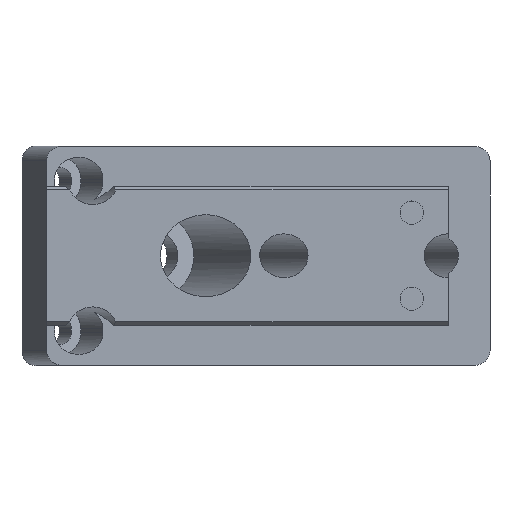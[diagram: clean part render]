
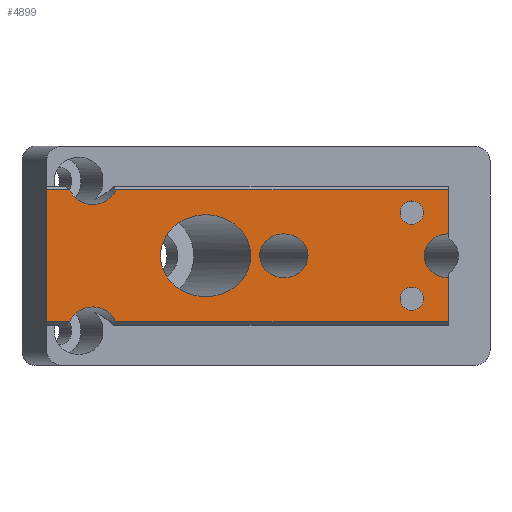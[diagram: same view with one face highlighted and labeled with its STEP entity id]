
A CAD part, top view. The second image highlights one B-rep face of the part: STEP entity #4899.
In plain terms, the highlighted planar face has unit normal (0, 0, 1).
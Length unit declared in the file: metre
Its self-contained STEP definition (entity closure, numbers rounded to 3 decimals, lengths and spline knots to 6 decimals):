
#186=ELLIPSE('',#5206,0.006179,0.0056);
#187=ELLIPSE('',#5207,0.00331,0.003);
#188=ELLIPSE('',#5210,0.00331,0.003);
#189=ELLIPSE('',#5211,0.00331,0.003);
#190=ELLIPSE('',#5212,0.00331,0.003);
#293=CIRCLE('',#5208,0.0016);
#294=CIRCLE('',#5209,0.0016);
#428=ORIENTED_EDGE('',*,*,#1924,.T.);
#429=ORIENTED_EDGE('',*,*,#1925,.T.);
#430=ORIENTED_EDGE('',*,*,#1926,.T.);
#431=ORIENTED_EDGE('',*,*,#1927,.T.);
#432=ORIENTED_EDGE('',*,*,#1928,.F.);
#433=ORIENTED_EDGE('',*,*,#1929,.T.);
#434=ORIENTED_EDGE('',*,*,#1930,.F.);
#435=ORIENTED_EDGE('',*,*,#1931,.T.);
#436=ORIENTED_EDGE('',*,*,#1932,.F.);
#437=ORIENTED_EDGE('',*,*,#1933,.T.);
#438=ORIENTED_EDGE('',*,*,#1934,.T.);
#439=ORIENTED_EDGE('',*,*,#1935,.T.);
#440=ORIENTED_EDGE('',*,*,#1936,.F.);
#441=ORIENTED_EDGE('',*,*,#1937,.T.);
#1924=EDGE_CURVE('',#2672,#2672,#186,.T.);
#1925=EDGE_CURVE('',#2673,#2673,#187,.T.);
#1926=EDGE_CURVE('',#2674,#2674,#293,.T.);
#1927=EDGE_CURVE('',#2675,#2675,#294,.T.);
#1928=EDGE_CURVE('',#2676,#2677,#3156,.T.);
#1929=EDGE_CURVE('',#2676,#2678,#188,.T.);
#1930=EDGE_CURVE('',#2679,#2678,#3157,.T.);
#1931=EDGE_CURVE('',#2679,#2680,#3158,.T.);
#1932=EDGE_CURVE('',#2681,#2680,#189,.F.);
#1933=EDGE_CURVE('',#2681,#2682,#3159,.T.);
#1934=EDGE_CURVE('',#2682,#2683,#3160,.T.);
#1935=EDGE_CURVE('',#2683,#2684,#3161,.T.);
#1936=EDGE_CURVE('',#2685,#2684,#190,.F.);
#1937=EDGE_CURVE('',#2685,#2677,#3162,.T.);
#2672=VERTEX_POINT('',#6831);
#2673=VERTEX_POINT('',#6833);
#2674=VERTEX_POINT('',#6835);
#2675=VERTEX_POINT('',#6837);
#2676=VERTEX_POINT('',#6839);
#2677=VERTEX_POINT('',#6840);
#2678=VERTEX_POINT('',#6842);
#2679=VERTEX_POINT('',#6844);
#2680=VERTEX_POINT('',#6846);
#2681=VERTEX_POINT('',#6848);
#2682=VERTEX_POINT('',#6850);
#2683=VERTEX_POINT('',#6852);
#2684=VERTEX_POINT('',#6854);
#2685=VERTEX_POINT('',#6856);
#3156=LINE('',#6838,#3649);
#3157=LINE('',#6843,#3650);
#3158=LINE('',#6845,#3651);
#3159=LINE('',#6849,#3652);
#3160=LINE('',#6851,#3653);
#3161=LINE('',#6853,#3654);
#3162=LINE('',#6857,#3655);
#3649=VECTOR('',#5616,1.);
#3650=VECTOR('',#5619,1.);
#3651=VECTOR('',#5620,1.);
#3652=VECTOR('',#5623,1.);
#3653=VECTOR('',#5624,1.);
#3654=VECTOR('',#5625,1.);
#3655=VECTOR('',#5628,1.);
#4129=EDGE_LOOP('',(#428));
#4130=EDGE_LOOP('',(#429));
#4131=EDGE_LOOP('',(#430));
#4132=EDGE_LOOP('',(#431));
#4133=EDGE_LOOP('',(#432,#433,#434,#435,#436,#437,#438,#439,#440,#441));
#4440=FACE_BOUND('',#4129,.T.);
#4441=FACE_BOUND('',#4130,.T.);
#4442=FACE_BOUND('',#4131,.T.);
#4443=FACE_BOUND('',#4132,.T.);
#4444=FACE_BOUND('',#4133,.T.);
#4743=PLANE('',#5205);
#4899=ADVANCED_FACE('',(#4440,#4441,#4442,#4443,#4444),#4743,.F.);
#5205=AXIS2_PLACEMENT_3D('',#6829,#5606,#5607);
#5206=AXIS2_PLACEMENT_3D('',#6830,#5608,#5609);
#5207=AXIS2_PLACEMENT_3D('',#6832,#5610,#5611);
#5208=AXIS2_PLACEMENT_3D('',#6834,#5612,#5613);
#5209=AXIS2_PLACEMENT_3D('',#6836,#5614,#5615);
#5210=AXIS2_PLACEMENT_3D('',#6841,#5617,#5618);
#5211=AXIS2_PLACEMENT_3D('',#6847,#5621,#5622);
#5212=AXIS2_PLACEMENT_3D('',#6855,#5626,#5627);
#5606=DIRECTION('',(0.,0.,-1.));
#5607=DIRECTION('',(-1.,0.,0.));
#5608=DIRECTION('',(0.,0.,-1.));
#5609=DIRECTION('',(-1.,0.,0.));
#5610=DIRECTION('',(0.,0.,-1.));
#5611=DIRECTION('',(-1.,0.,0.));
#5612=DIRECTION('',(0.,0.,-1.));
#5613=DIRECTION('',(-1.,0.,0.));
#5614=DIRECTION('',(0.,0.,-1.));
#5615=DIRECTION('',(-1.,0.,0.));
#5616=DIRECTION('',(0.,-1.,0.));
#5617=DIRECTION('',(0.,0.,-1.));
#5618=DIRECTION('',(-1.,0.,0.));
#5619=DIRECTION('',(0.,-1.,0.));
#5620=DIRECTION('',(-1.,0.,0.));
#5621=DIRECTION('',(0.,0.,-1.));
#5622=DIRECTION('',(-1.,0.,0.));
#5623=DIRECTION('',(-1.,0.,0.));
#5624=DIRECTION('',(0.,-1.,0.));
#5625=DIRECTION('',(1.,0.,0.));
#5626=DIRECTION('',(0.,0.,-1.));
#5627=DIRECTION('',(-1.,0.,0.));
#5628=DIRECTION('',(1.,0.,0.));
#6829=CARTESIAN_POINT('',(0.055,0.,0.0041));
#6830=CARTESIAN_POINT('',(0.021773,0.,0.0041));
#6831=CARTESIAN_POINT('',(0.015594,0.,0.0041));
#6832=CARTESIAN_POINT('',(0.032475,0.,0.0041));
#6833=CARTESIAN_POINT('',(0.029165,0.,0.0041));
#6834=CARTESIAN_POINT('',(0.05,0.0059,0.0041));
#6835=CARTESIAN_POINT('',(0.0484,0.0059,0.0041));
#6836=CARTESIAN_POINT('',(0.05,-0.0059,0.0041));
#6837=CARTESIAN_POINT('',(0.0484,-0.0059,0.0041));
#6838=CARTESIAN_POINT('',(0.055,0.,0.0041));
#6839=CARTESIAN_POINT('',(0.055,-0.003,0.0041));
#6840=CARTESIAN_POINT('',(0.055,-0.009004,0.0041));
#6841=CARTESIAN_POINT('',(0.054984,0.,0.0041));
#6842=CARTESIAN_POINT('',(0.055,0.003,0.0041));
#6843=CARTESIAN_POINT('',(0.055,0.,0.0041));
#6844=CARTESIAN_POINT('',(0.055,0.009004,0.0041));
#6845=CARTESIAN_POINT('',(0.,0.009004,0.0041));
#6846=CARTESIAN_POINT('',(0.009448,0.009004,0.0041));
#6847=CARTESIAN_POINT('',(0.006325,0.01,0.0041));
#6848=CARTESIAN_POINT('',(0.003203,0.009004,0.0041));
#6849=CARTESIAN_POINT('',(0.,0.009004,0.0041));
#6850=CARTESIAN_POINT('',(0.,0.009004,0.0041));
#6851=CARTESIAN_POINT('',(0.,0.,0.0041));
#6852=CARTESIAN_POINT('',(0.,-0.009004,0.0041));
#6853=CARTESIAN_POINT('',(0.055,-0.009004,0.0041));
#6854=CARTESIAN_POINT('',(0.003203,-0.009004,0.0041));
#6855=CARTESIAN_POINT('',(0.006325,-0.01,0.0041));
#6856=CARTESIAN_POINT('',(0.009448,-0.009004,0.0041));
#6857=CARTESIAN_POINT('',(0.055,-0.009004,0.0041));
